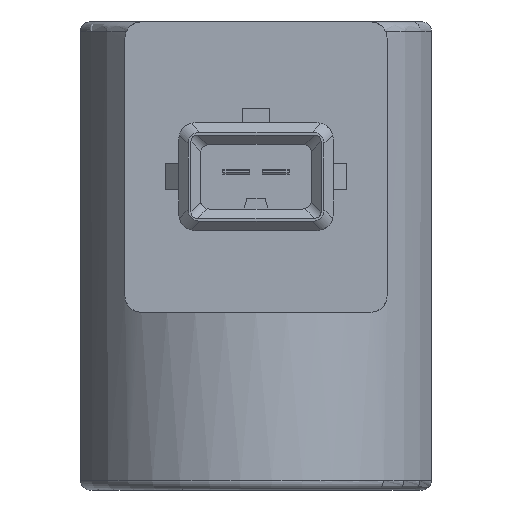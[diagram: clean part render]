
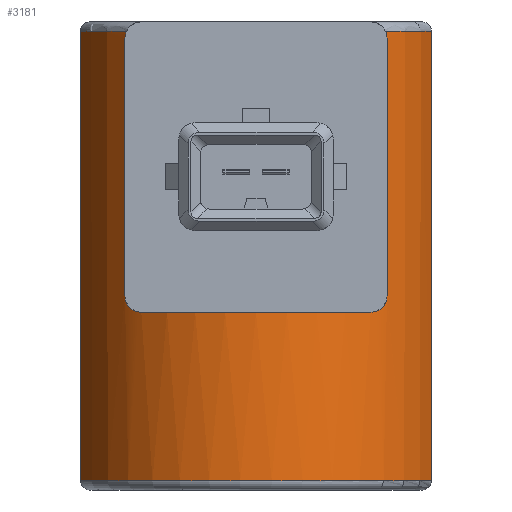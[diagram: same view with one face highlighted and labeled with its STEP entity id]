
A CAD part, left-side view. The second image highlights one B-rep face of the part: STEP entity #3181.
In plain terms, the highlighted cylindrical face has radius 19.5 mm (diameter 39 mm), a partial arc.
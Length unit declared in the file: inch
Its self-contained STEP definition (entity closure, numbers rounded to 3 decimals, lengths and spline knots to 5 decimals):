
#2662=CARTESIAN_POINT('',(5.87533,4.80723,-0.03937));
#2663=VERTEX_POINT('',#2662);
#2675=CARTESIAN_POINT('',(5.8821,4.81388,-0.0689));
#2676=VERTEX_POINT('',#2675);
#2677=CARTESIAN_POINT('',(5.8821,4.81388,-0.0689));
#2678=CARTESIAN_POINT('',(5.8821,4.81388,-0.06457));
#2679=CARTESIAN_POINT('',(5.88167,4.81346,-0.06017));
#2680=CARTESIAN_POINT('',(5.87998,4.81181,-0.05159));
#2681=CARTESIAN_POINT('',(5.87871,4.81057,-0.04739));
#2682=CARTESIAN_POINT('',(5.87656,4.80845,-0.04205));
#2683=CARTESIAN_POINT('',(5.87596,4.80786,-0.0407));
#2684=CARTESIAN_POINT('',(5.87533,4.80723,-0.03937));
#2685=B_SPLINE_CURVE_WITH_KNOTS('',3,(#2677,#2678,#2679,#2680,#2681,#2682,#2683,#2684),.UNSPECIFIED.,.F.,.U.,(4,2,2,4),(0.0,0.33006,0.66013,0.77574),.UNSPECIFIED.);
#2686=EDGE_CURVE('',#2676,#2663,#2685,.T.);
#2729=CARTESIAN_POINT('',(6.20564,5.00089,-0.03937));
#2730=VERTEX_POINT('',#2729);
#2748=CARTESIAN_POINT('',(6.41651,4.2627,-0.03937));
#2749=DIRECTION('',(0.0,0.0,1.0));
#2750=DIRECTION('',(-1.0,0.0,0.0));
#2751=AXIS2_PLACEMENT_3D('',#2748,#2749,#2750);
#2752=CIRCLE('',#2751,0.76772);
#2753=EDGE_CURVE('',#2730,#2663,#2752,.T.);
#2782=CARTESIAN_POINT('',(5.8821,3.71151,-0.0689));
#2783=VERTEX_POINT('',#2782);
#2790=CARTESIAN_POINT('',(5.87533,3.71816,-0.03937));
#2791=VERTEX_POINT('',#2790);
#2792=CARTESIAN_POINT('',(5.87533,3.71816,-0.03937));
#2793=CARTESIAN_POINT('',(5.87596,3.71753,-0.0407));
#2794=CARTESIAN_POINT('',(5.87656,3.71694,-0.04205));
#2795=CARTESIAN_POINT('',(5.87871,3.71482,-0.04739));
#2796=CARTESIAN_POINT('',(5.87998,3.71358,-0.05159));
#2797=CARTESIAN_POINT('',(5.88167,3.71193,-0.06017));
#2798=CARTESIAN_POINT('',(5.8821,3.71151,-0.06457));
#2799=CARTESIAN_POINT('',(5.8821,3.71151,-0.0689));
#2800=B_SPLINE_CURVE_WITH_KNOTS('',3,(#2792,#2793,#2794,#2795,#2796,#2797,#2798,#2799),.UNSPECIFIED.,.F.,.U.,(4,2,2,4),(-0.77574,-0.66013,-0.33006,0.0),.UNSPECIFIED.);
#2801=EDGE_CURVE('',#2791,#2783,#2800,.T.);
#3007=CARTESIAN_POINT('',(5.8821,3.71151,-1.15158));
#3008=VERTEX_POINT('',#3007);
#3009=CARTESIAN_POINT('',(5.8821,3.71151,-0.0689));
#3010=DIRECTION('',(0.0,0.0,-1.0));
#3011=VECTOR('',#3010,1.08268);
#3012=LINE('',#3009,#3011);
#3013=EDGE_CURVE('',#2783,#3008,#3012,.T.);
#3031=CARTESIAN_POINT('',(5.81919,3.78041,-1.22047));
#3032=VERTEX_POINT('',#3031);
#3033=CARTESIAN_POINT('',(5.8821,3.71151,-1.15158));
#3034=CARTESIAN_POINT('',(5.8821,3.71151,-1.15591));
#3035=CARTESIAN_POINT('',(5.88167,3.71193,-1.1603));
#3036=CARTESIAN_POINT('',(5.87998,3.71358,-1.16889));
#3037=CARTESIAN_POINT('',(5.87871,3.71482,-1.17308));
#3038=CARTESIAN_POINT('',(5.87393,3.71954,-1.18495));
#3039=CARTESIAN_POINT('',(5.8694,3.72408,-1.19191));
#3040=CARTESIAN_POINT('',(5.85836,3.7355,-1.20475));
#3041=CARTESIAN_POINT('',(5.85066,3.74371,-1.2107));
#3042=CARTESIAN_POINT('',(5.83477,3.76159,-1.21857));
#3043=CARTESIAN_POINT('',(5.82657,3.77126,-1.22047));
#3044=CARTESIAN_POINT('',(5.81919,3.78041,-1.22047));
#3045=B_SPLINE_CURVE_WITH_KNOTS('',3,(#3033,#3034,#3035,#3036,#3037,#3038,#3039,#3040,#3041,#3042,#3043,#3044),.UNSPECIFIED.,.F.,.U.,(4,2,2,2,2,4),(0.0,0.33006,0.66013,1.32026,2.21635,3.11244),.UNSPECIFIED.);
#3046=EDGE_CURVE('',#3008,#3032,#3045,.T.);
#3064=CARTESIAN_POINT('',(5.81919,4.74498,-1.22047));
#3065=VERTEX_POINT('',#3064);
#3066=CARTESIAN_POINT('',(6.41651,4.2627,-1.22047));
#3067=DIRECTION('',(0.0,0.0,-1.0));
#3068=DIRECTION('',(-1.0,0.0,0.0));
#3069=AXIS2_PLACEMENT_3D('',#3066,#3067,#3068);
#3070=CIRCLE('',#3069,0.76772);
#3071=EDGE_CURVE('',#3032,#3065,#3070,.T.);
#3089=CARTESIAN_POINT('',(5.8821,4.81388,-1.15158));
#3090=VERTEX_POINT('',#3089);
#3091=CARTESIAN_POINT('',(5.81919,4.74498,-1.22047));
#3092=CARTESIAN_POINT('',(5.82657,4.75413,-1.22047));
#3093=CARTESIAN_POINT('',(5.83477,4.7638,-1.21857));
#3094=CARTESIAN_POINT('',(5.85066,4.78168,-1.2107));
#3095=CARTESIAN_POINT('',(5.85836,4.7899,-1.20475));
#3096=CARTESIAN_POINT('',(5.8694,4.80131,-1.19191));
#3097=CARTESIAN_POINT('',(5.87393,4.80586,-1.18495));
#3098=CARTESIAN_POINT('',(5.87871,4.81057,-1.17308));
#3099=CARTESIAN_POINT('',(5.87998,4.81181,-1.16889));
#3100=CARTESIAN_POINT('',(5.88167,4.81346,-1.1603));
#3101=CARTESIAN_POINT('',(5.8821,4.81388,-1.15591));
#3102=CARTESIAN_POINT('',(5.8821,4.81388,-1.15158));
#3103=B_SPLINE_CURVE_WITH_KNOTS('',3,(#3091,#3092,#3093,#3094,#3095,#3096,#3097,#3098,#3099,#3100,#3101,#3102),.UNSPECIFIED.,.F.,.U.,(4,2,2,2,2,4),(-3.11244,-2.21635,-1.32026,-0.66013,-0.33006,0.0),.UNSPECIFIED.);
#3104=EDGE_CURVE('',#3065,#3090,#3103,.T.);
#3122=CARTESIAN_POINT('',(5.8821,4.81388,-1.15158));
#3123=DIRECTION('',(0.0,0.0,1.0));
#3124=VECTOR('',#3123,1.08268);
#3125=LINE('',#3122,#3124);
#3126=EDGE_CURVE('',#3090,#2676,#3125,.T.);
#3134=CARTESIAN_POINT('',(6.41651,4.2627,0.0));
#3135=DIRECTION('',(0.0,0.0,-1.0));
#3136=DIRECTION('',(-1.0,0.0,0.0));
#3137=AXIS2_PLACEMENT_3D('',#3134,#3135,#3136);
#3138=CYLINDRICAL_SURFACE('',#3137,0.76772);
#3139=ORIENTED_EDGE('',*,*,#2801,.T.);
#3140=ORIENTED_EDGE('',*,*,#3013,.T.);
#3141=ORIENTED_EDGE('',*,*,#3046,.T.);
#3142=ORIENTED_EDGE('',*,*,#3071,.T.);
#3143=ORIENTED_EDGE('',*,*,#3104,.T.);
#3144=ORIENTED_EDGE('',*,*,#3126,.T.);
#3145=ORIENTED_EDGE('',*,*,#2686,.T.);
#3146=ORIENTED_EDGE('',*,*,#2753,.F.);
#3147=CARTESIAN_POINT('',(6.20564,5.00089,-1.92913));
#3148=VERTEX_POINT('',#3147);
#3149=CARTESIAN_POINT('',(6.20564,5.00089,-0.03937));
#3150=DIRECTION('',(0.0,0.0,-1.0));
#3151=VECTOR('',#3150,1.88976);
#3152=LINE('',#3149,#3151);
#3153=EDGE_CURVE('',#2730,#3148,#3152,.T.);
#3154=ORIENTED_EDGE('',*,*,#3153,.T.);
#3155=CARTESIAN_POINT('',(6.20564,3.52451,-1.92913));
#3156=VERTEX_POINT('',#3155);
#3157=CARTESIAN_POINT('',(6.41651,4.2627,-1.92913));
#3158=DIRECTION('',(0.0,0.0,-1.0));
#3159=DIRECTION('',(-1.0,0.0,0.0));
#3160=AXIS2_PLACEMENT_3D('',#3157,#3158,#3159);
#3161=CIRCLE('',#3160,0.76772);
#3162=EDGE_CURVE('',#3156,#3148,#3161,.T.);
#3163=ORIENTED_EDGE('',*,*,#3162,.F.);
#3164=CARTESIAN_POINT('',(6.20564,3.52451,-0.03937));
#3165=VERTEX_POINT('',#3164);
#3166=CARTESIAN_POINT('',(6.20564,3.52451,-0.03937));
#3167=DIRECTION('',(0.0,0.0,-1.0));
#3168=VECTOR('',#3167,1.88976);
#3169=LINE('',#3166,#3168);
#3170=EDGE_CURVE('',#3165,#3156,#3169,.T.);
#3171=ORIENTED_EDGE('',*,*,#3170,.F.);
#3172=CARTESIAN_POINT('',(6.41651,4.2627,-0.03937));
#3173=DIRECTION('',(0.0,0.0,1.0));
#3174=DIRECTION('',(-1.0,0.0,0.0));
#3175=AXIS2_PLACEMENT_3D('',#3172,#3173,#3174);
#3176=CIRCLE('',#3175,0.76772);
#3177=EDGE_CURVE('',#2791,#3165,#3176,.T.);
#3178=ORIENTED_EDGE('',*,*,#3177,.F.);
#3179=EDGE_LOOP('',(#3139,#3140,#3141,#3142,#3143,#3144,#3145,#3146,#3154,#3163,#3171,#3178));
#3180=FACE_OUTER_BOUND('',#3179,.T.);
#3181=ADVANCED_FACE('',(#3180),#3138,.T.);
